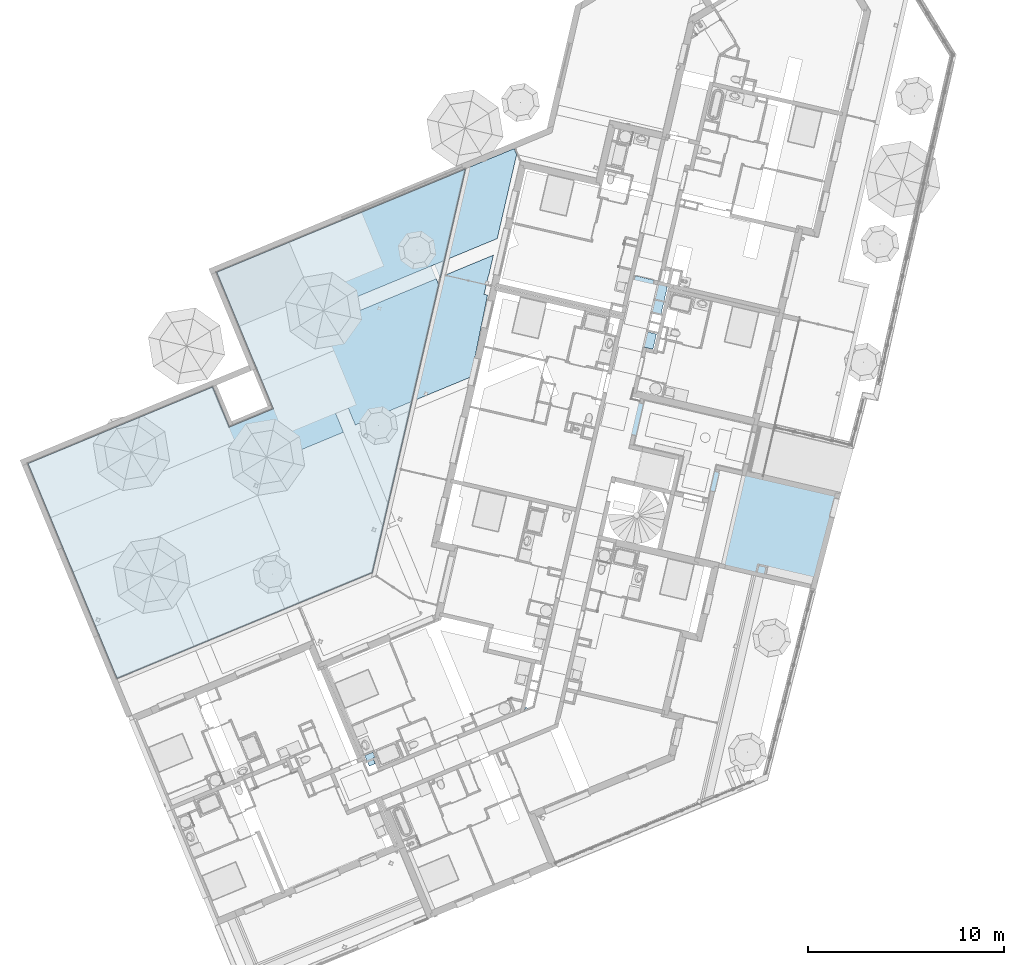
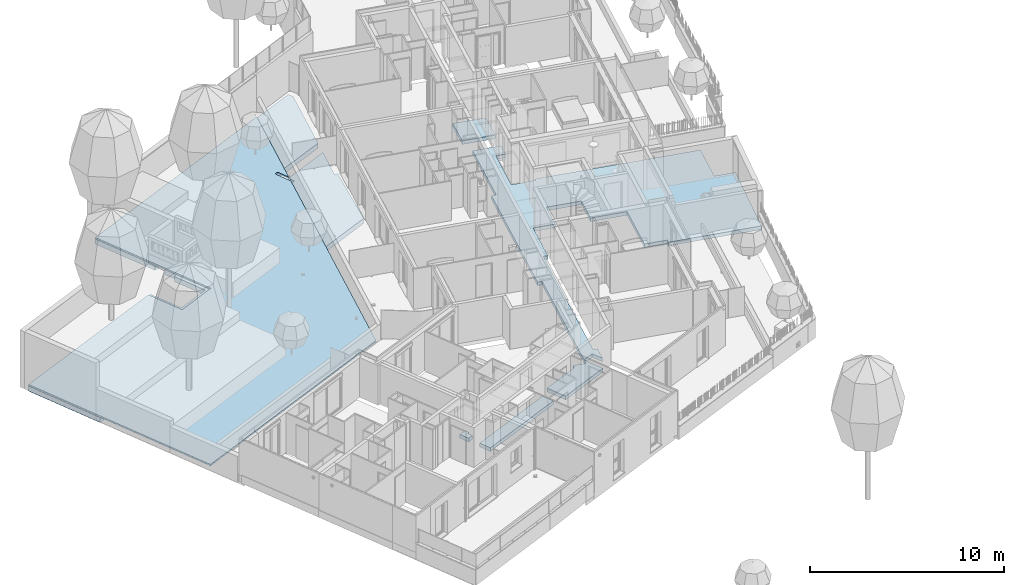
# One storey, part 4 of 119: 3 slabs.
"""IFC2X3 building model written with IfcOpenShell, lengths in metres."""

from ifc_helpers import new_model, entity, si_unit, converted_unit, derived_unit, money_unit, direction, frame, origin_with_axes, place, context, subcontext, project, spatial, faceted_brep, material, material_list, type_object, element, save


model = new_model("IFC2X3")

# Units and contexts
model_context = context("Model", 3, precision=1e-05, world=origin_with_axes(), true_north=direction((0.0, 1.0)))
body_context = subcontext(model_context, "Body", "Model", "MODEL_VIEW")
ifc_project = project(units=[si_unit("LENGTHUNIT", "METRE"), si_unit("AREAUNIT", "SQUARE_METRE"), si_unit("VOLUMEUNIT", "CUBIC_METRE"), converted_unit("PLANEANGLEUNIT", "DEGREE", entity("IfcPlaneAngleMeasure", 0.0174532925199), si_unit("PLANEANGLEUNIT", "RADIAN"), dimensions=[0, 0, 0, 0, 0, 0, 0]), si_unit("SOLIDANGLEUNIT", "STERADIAN"), money_unit("EUR"), converted_unit("TIMEUNIT", "Year", entity("IfcTimeMeasure", 31556926.0), si_unit("TIMEUNIT", "SECOND"), dimensions=[0, 0, 1, 0, 0, 0, 0]), si_unit("MASSUNIT", "GRAM", prefix="KILO"), si_unit("THERMODYNAMICTEMPERATUREUNIT", "DEGREE_CELSIUS"), si_unit("LUMINOUSINTENSITYUNIT", "LUMEN"), si_unit("ENERGYUNIT", "JOULE", prefix="MEGA"), derived_unit("THERMALCONDUCTANCEUNIT", [(si_unit("POWERUNIT", "WATT"), 1), (si_unit("LENGTHUNIT", "METRE"), -1), (si_unit("THERMODYNAMICTEMPERATUREUNIT", "KELVIN"), -1)]), derived_unit("SPECIFICHEATCAPACITYUNIT", [(si_unit("ENERGYUNIT", "JOULE"), 1), (si_unit("MASSUNIT", "GRAM", prefix="KILO"), -1), (si_unit("THERMODYNAMICTEMPERATUREUNIT", "KELVIN"), -1)]), derived_unit("MASSDENSITYUNIT", [(si_unit("MASSUNIT", "GRAM", prefix="KILO"), 1), (si_unit("VOLUMEUNIT", "CUBIC_METRE"), -1)])], contexts=[model_context])

# Site, building, storey
site_placement = place(None, origin_with_axes())
site = spatial("IfcSite", under=ifc_project, at=site_placement, Name="Site", CompositionType="ELEMENT")
building_placement = place(site_placement, origin_with_axes())
building = spatial("IfcBuilding", under=site, at=building_placement, Name="Bâtiment", CompositionType="ELEMENT")
storey_placement = place(building_placement, origin_with_axes())
storey = spatial("IfcBuildingStorey", under=building, at=storey_placement, Name="Rez-de-chaussée", CompositionType="ELEMENT", Elevation=0.0)

# Slabs
ifc_material_1 = material(Name="Divers - Vide")
ifc_material_2 = material(Name="Etanchéité - Bitume")
ifc_material_list = material_list([ifc_material_1, ifc_material_2])
slab_type_1 = type_object("IfcSlabType", Name="6 -Etanchéité dalle sous-sol sous terre 90", PredefinedType="FLOOR")
slab_1_placement = place(storey_placement, frame((-40.5172807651, -5.04094989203, 0.09), z_axis=(0.0, 0.0, 1.0), x_axis=(1.0, 0.0, 0.0)))
element("IfcSlab", 1, at=slab_1_placement, inside=storey, type_object=slab_type_1, material=ifc_material_list, Name="Dalle_007", PredefinedType="FLOOR", context=body_context, shape_type="Brep", body=[
    faceted_brep([(20.996148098, 9.42714633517, -0.04), (21.0027419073, 9.41124836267, -0.04), (22.2891817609, 14.9853852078, -0.04), (22.2919447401, 14.9973571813, -0.04), (22.27400142, 14.989915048, -0.04), (22.2778325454, 14.9806780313, -0.04), (21.0027419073, 9.41124836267, -0.08), (20.996148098, 9.42714633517, 0.0), (20.710200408, 10.1165791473, 0.0), (20.710200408, 10.1165791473, -0.08), (22.2919493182, 14.9973770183, -0.08), (22.27400142, 14.989915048, -0.08), (22.2778325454, 14.9806780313, -0.08), (22.2778325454, 14.9806780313, 0.0), (9.61933571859, 9.73046679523, 0.0), (11.6508897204, 4.83229818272, 0.0), (12.4975684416, 2.79091747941, 0.0), (12.501399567, 2.78168046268, 0.0), (10.2568107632, 1.85071958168, 0.0), (10.2529796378, 1.85995659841, 0.0), (9.41013204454, 3.89210027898, 0.0), (0.0130681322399, -0.00540597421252, 0.0), (4.55058945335, -10.9455751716, 0.0), (17.5375013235, -5.55915121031, 0.0), (20.9187405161, 9.09173970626, 0.0), (20.5254600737, 10.0399566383, 0.0), (20.5254600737, 10.0399566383, -0.08), (20.9253343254, 9.07584173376, -0.08), (17.5460875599, -5.56641600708, -0.08), (4.54518361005, -10.9586433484, -0.08), (4.54135243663, -10.9494062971, -0.08), (4.55058945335, -10.9455751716, -0.08), (0.0130681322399, -0.00540597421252, -0.08), (9.41013204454, 3.89210027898, -0.08), (10.2529796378, 1.85995659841, -0.08), (10.2568107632, 1.85071958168, -0.08), (12.501399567, 2.78168046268, -0.08), (12.4975684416, 2.79091747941, -0.08), (11.6508897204, 4.83229818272, -0.08), (9.61933571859, 9.73046679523, -0.08), (4.55058945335, -10.9455751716, -0.04), (17.5375013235, -5.55915121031, -0.04), (20.9187405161, 9.09173970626, -0.04), (20.9253343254, 9.07584173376, -0.04), (17.5460875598, -5.56641600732, -0.04), (17.5347383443, -5.57112318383, -0.04), (4.54518356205, -10.9586433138, -0.04), (4.54135243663, -10.9494062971, -0.04)], [[[0, 1, 2, 3, 4, 5]], [[6, 1, 0, 7, 8, 9]], [[1, 6, 10, 3, 2]], [[3, 10, 4]], [[5, 4, 11, 12]], [[7, 0, 5, 13]], [[8, 7, 13, 14, 15, 16, 17, 18, 19, 20, 21, 22, 23, 24, 25]], [[8, 25, 26, 9]], [[26, 27, 28, 29, 30, 31, 32, 33, 34, 35, 36, 37, 38, 39, 12, 11, 10, 6, 9]], [[11, 4, 10]], [[39, 14, 13, 5, 12]], [[14, 39, 38, 15]], [[37, 16, 15, 38]], [[36, 17, 16, 37]], [[35, 18, 17, 36]], [[34, 19, 18, 35]], [[20, 19, 34, 33]], [[33, 32, 21, 20]], [[31, 40, 22, 21, 32]], [[40, 41, 23, 22]], [[42, 24, 23, 41]], [[42, 43, 27, 26, 25, 24]], [[27, 43, 44, 28]], [[44, 45, 46, 29, 28]], [[29, 46, 47, 30]], [[30, 47, 40, 31]], [[43, 42, 41, 40, 47, 46, 45, 44]]]),
    faceted_brep([(20.5254600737, 10.0399566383, -0.08), (20.710200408, 10.1165791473, -0.08), (21.0027419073, 9.41124836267, -0.08), (22.2919493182, 14.9973770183, -0.08), (9.60626754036, 9.73587258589, -0.08), (11.6481805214, 4.83117452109, -0.08), (11.6508959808, 4.83230077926, -0.08), (12.4975747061, 2.79092008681, -0.08), (10.2622166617, 1.86378772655, -0.08), (9.41553793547, 3.90516842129, -0.08), (0.0, 0.0, -0.08), (4.54518361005, -10.9586433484, -0.08), (17.5460875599, -5.56641600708, -0.08), (20.9253343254, 9.07584173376, -0.08), (20.5254600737, 10.0399566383, -0.09), (20.710200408, 10.1165791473, -0.09), (21.0027419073, 9.41124836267, -0.09), (22.2919493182, 14.9973770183, -0.09), (9.60626754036, 9.73587258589, -0.09), (11.6481805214, 4.83117452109, -0.09), (11.6508959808, 4.83230077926, -0.09), (12.4975747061, 2.79092008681, -0.09), (10.2622166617, 1.86378772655, -0.09), (9.41553793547, 3.90516842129, -0.09), (0.0, 0.0, -0.09), (4.54518361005, -10.9586433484, -0.09), (17.5460875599, -5.56641600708, -0.09), (20.9253343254, 9.07584173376, -0.09)], [[[0, 1, 2, 3, 4, 5, 6, 7, 8, 9, 10, 11, 12, 13]], [[1, 0, 14, 15]], [[16, 2, 1, 15]], [[2, 16, 17, 3]], [[3, 17, 18, 4]], [[19, 5, 4, 18]], [[20, 6, 5, 19]], [[21, 7, 6, 20]], [[22, 8, 7, 21]], [[23, 9, 8, 22]], [[24, 10, 9, 23]], [[10, 24, 25, 11]], [[11, 25, 26, 12]], [[27, 13, 12, 26]], [[0, 13, 27, 14]], [[14, 27, 26, 25, 24, 23, 22, 21, 20, 19, 18, 17, 16, 15]]]),
])
ifc_material_3 = material(Name="Béton")
slab_type_2 = type_object("IfcSlabType", Name="Béton 320", PredefinedType="FLOOR")
slab_2_placement = place(storey_placement, frame((-16.6275093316, 3.92628241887, 0.0), z_axis=(0.0, 0.0, 1.0), x_axis=(1.0, 0.0, 0.0)))
element("IfcSlab", 2, at=slab_2_placement, inside=storey, type_object=slab_type_2, material=ifc_material_3, Name="Dalle alvéolaire préfabriquée", PredefinedType="FLOOR", context=body_context, shape_type="Brep", body=[
    faceted_brep([(0.865340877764, 7.05175783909, 0.0), (-14.2835038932, 0.768640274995, 0.0), (-12.7891793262, -2.8342259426, 0.0), (0.00729475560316, 2.47321248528, 0.0), (0.993011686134, 6.74431853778, 0.0), (-14.2835038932, 0.768640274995, -0.32), (0.865340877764, 7.05175783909, -0.32), (-12.7891793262, -2.8342259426, -0.32), (0.00729475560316, 2.47321248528, -0.32), (0.993011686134, 6.74431853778, -0.32)], [[[0, 1, 2, 3, 4]], [[5, 1, 0, 6]], [[1, 5, 7, 2]], [[2, 7, 8, 3]], [[9, 4, 3, 8]], [[6, 0, 4, 9]], [[6, 9, 8, 7, 5]]]),
    faceted_brep([(-2.75814722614, 0.13327499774, 0.0), (-2.94288756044, 0.0566524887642, 0.0), (-3.09687146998, 0.427914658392, 0.0), (-9.2449945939, -2.12206783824, 0.0), (-7.21753300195, -7.01036942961, 0.0), (-1.34414815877, -4.57433679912, 0.0), (-1.23375768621, -4.09601548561, 0.0), (-0.488751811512, -0.400345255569, 0.0), (-0.662237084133, -0.360307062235, 0.0), (-0.437360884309, 0.614080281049, 0.0), (-0.422557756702, 0.610663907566, 0.0), (-0.186113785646, 1.63517433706, 0.0), (-2.91213113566, 0.504537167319, 0.0), (-2.94288756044, 0.0566524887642, -0.32), (-2.75814722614, 0.13327499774, -0.32), (-3.09687146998, 0.427914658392, -0.32), (-9.2449945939, -2.12206783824, -0.32), (-7.21753300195, -7.01036942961, -0.32), (-1.34414815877, -4.57433679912, -0.32), (-1.23375768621, -4.09601548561, -0.32), (-0.488751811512, -0.400345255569, -0.32), (-0.662237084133, -0.360307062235, -0.32), (-0.437360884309, 0.614080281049, -0.32), (-0.422557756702, 0.610663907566, -0.32), (-0.186113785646, 1.63517433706, -0.32), (-2.91213113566, 0.504537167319, -0.32)], [[[0, 1, 2, 3, 4, 5, 6, 7, 8, 9, 10, 11, 12]], [[13, 1, 0, 14]], [[15, 2, 1, 13]], [[3, 2, 15, 16]], [[3, 16, 17, 4]], [[18, 5, 4, 17]], [[5, 18, 19, 6]], [[20, 7, 6, 19]], [[21, 8, 7, 20]], [[21, 22, 9, 8]], [[9, 22, 23, 10]], [[10, 23, 24, 11]], [[24, 25, 12, 11]], [[14, 0, 12, 25]], [[13, 14, 25, 24, 23, 22, 21, 20, 19, 18, 17, 16, 15]]]),
    faceted_brep([(-22.0929221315, -13.2995172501, -0.32), (-18.1671900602, -11.671288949, -0.32), (-18.1671900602, -11.671288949, 0.0), (-22.0929221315, -13.2995172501, 0.0), (-23.8897714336, -8.9672323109, -0.32), (-19.9640393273, -7.33900410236, -0.32), (-19.9640393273, -7.33900410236, 0.0), (-23.8897714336, -8.9672323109, 0.0)], [[[0, 1, 2, 3]], [[4, 5, 1, 0]], [[5, 6, 2, 1]], [[3, 2, 6, 7]], [[3, 7, 4, 0]], [[7, 6, 5, 4]]]),
    faceted_brep([(-14.2802561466, -4.98161025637, 0.0), (-14.6065696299, -5.11695134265, 0.0), (-12.8097203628, -9.44923618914, 0.0), (-7.82184840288, -7.38047700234, 0.0), (-9.89158576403, -2.39024661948, 0.0), (-12.521000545, -3.48081711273, 0.0), (-12.2481124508, -4.13876264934, 0.0), (-12.4328528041, -4.21538516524, 0.0), (-11.666627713, -6.0627885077, 0.0), (-13.5140310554, -6.82901359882, 0.0), (-14.2802561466, -4.98161025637, -0.32), (-14.6065696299, -5.11695134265, -0.32), (-12.8097203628, -9.44923618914, -0.32), (-7.82184840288, -7.38047700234, -0.32), (-9.89158576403, -2.39024661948, -0.32), (-12.521000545, -3.48081711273, -0.32), (-12.2481124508, -4.13876264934, -0.32), (-12.4328528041, -4.21538516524, -0.32), (-11.666627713, -6.0627885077, -0.32), (-13.5140310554, -6.82901359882, -0.32)], [[[0, 1, 2, 3, 4, 5, 6, 7, 8, 9]], [[10, 11, 1, 0]], [[12, 2, 1, 11]], [[2, 12, 13, 3]], [[14, 4, 3, 13]], [[5, 4, 14, 15]], [[6, 5, 15, 16]], [[7, 6, 16, 17]], [[8, 7, 17, 18]], [[9, 8, 18, 19]], [[0, 9, 19, 10]], [[13, 12, 11, 10, 19, 18, 17, 16, 15, 14]]]),
    faceted_brep([(-15.3455309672, -5.42344137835, 0.0), (-19.22507799, -7.03251406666, 0.0), (-17.4282287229, -11.3647989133, 0.0), (-13.5486817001, -9.75572622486, 0.0), (-15.3455309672, -5.42344137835, -0.32), (-19.22507799, -7.03251406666, -0.32), (-17.4282287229, -11.3647989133, -0.32), (-13.5486817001, -9.75572622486, -0.32)], [[[0, 1, 2, 3]], [[4, 5, 1, 0]], [[5, 6, 2, 1]], [[3, 2, 6, 7]], [[4, 0, 3, 7]], [[7, 6, 5, 4]]]),
])
slab_type_3 = type_object("IfcSlabType", Name="Béton 230", PredefinedType="FLOOR")
slab_3_placement = place(storey_placement, frame((-23.5844859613, -20.4172433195, -0.05), z_axis=(0.0, 0.0, 1.0), x_axis=(1.0, 0.0, 0.0)))
element("IfcSlab", 3, at=slab_3_placement, inside=storey, type_object=slab_type_3, material=ifc_material_3, Name="Pré-dalle préfabriquée pour dalle béton", PredefinedType="FLOOR", context=body_context, shape_type="Brep", body=[
    faceted_brep([(0.636809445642, 0.681682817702, 0.0), (0.221713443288, 0.509518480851, 0.0), (0.447889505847, -0.035802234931, 0.0), (0.755836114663, 0.0919210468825, 0.0), (0.634389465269, 0.384734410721, 0.0), (0.741538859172, 0.429175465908, 0.0), (0.636809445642, 0.681682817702, -0.23), (0.221713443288, 0.509518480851, -0.23), (0.447889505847, -0.035802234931, -0.23), (0.755836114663, 0.0919210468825, -0.23), (0.634389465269, 0.384734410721, -0.23), (0.741538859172, 0.429175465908, -0.23)], [[[0, 1, 2, 3, 4, 5]], [[6, 7, 1, 0]], [[7, 8, 2, 1]], [[3, 2, 8, 9]], [[4, 3, 9, 10]], [[5, 4, 10, 11]], [[0, 5, 11, 6]], [[9, 8, 7, 6, 11, 10]]]),
    faceted_brep([(13.555718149, 23.3756755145, 0.0), (13.5465344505, 23.3358825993, 0.0), (15.2916640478, 22.9331288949, 0.0), (15.6204911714, 24.3579350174, 0.0), (15.5613435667, 24.371585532, 0.0), (15.601913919, 24.5469721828, 0.0), (13.9083481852, 24.9480884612, 0.0), (13.8731168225, 24.7509622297, 0.0), (13.555718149, 23.3756755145, -0.23), (13.5465344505, 23.3358825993, -0.23), (15.2916640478, 22.9331288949, -0.23), (15.6204911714, 24.3579350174, -0.23), (15.5613435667, 24.371585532, -0.23), (15.601913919, 24.5469721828, -0.23), (13.9083481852, 24.9480884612, -0.23), (13.8731168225, 24.7509622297, -0.23)], [[[0, 1, 2, 3, 4, 5, 6, 7]], [[8, 9, 1, 0]], [[9, 10, 2, 1]], [[3, 2, 10, 11]], [[4, 3, 11, 12]], [[5, 4, 12, 13]], [[6, 5, 13, 14]], [[7, 6, 14, 15]], [[0, 7, 15, 8]], [[11, 10, 9, 8, 15, 14, 13, 12]]]),
    faceted_brep([(10.7982448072, 10.322625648, 0.0), (9.13540591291, 3.11755384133, 0.0), (9.77456683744, 3.38265086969, 0.0), (10.0372316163, 2.74935420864, -2.33519375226e-08), (10.2420623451, 3.63688463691, -5.44048184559e-08), (10.0088482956, 3.69070747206, -5.44048184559e-08), (11.979171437, 12.2281068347, -5.44048184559e-08), (12.2123854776, 12.1742840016, -5.44048184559e-08), (12.7973796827, 14.7090606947, 0.0), (13.9609897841, 14.4405142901, 0.0), (14.3195420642, 15.9905447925, 0.0), (16.1706616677, 15.5623447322, 0.0), (15.8108597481, 14.0033249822, 0.0), (17.7352747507, 13.5591944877, 0.0), (17.0471535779, 10.5775692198, 0.0), (18.2524382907, 10.2994048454, 0.0), (18.2073663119, 10.1045575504, 0.0), (23.1027891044, 8.97474841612, 0.0), (24.3690316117, 13.8344710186, 0.0), (23.2438278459, 14.0946740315, 0.0), (23.7954236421, 16.479236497, 0.0), (20.0067628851, 17.3556276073, 0.0), (15.0874905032, 18.4909330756, 0.0), (15.0593634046, 18.3690585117, 0.0), (14.3908702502, 18.5233382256, 0.0), (14.3862259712, 18.5032608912, 0.0), (13.7679638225, 18.6460464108, 0.0), (14.3805584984, 21.3004157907, 0.0), (14.8878356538, 21.1833426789, 0.0), (15.0667878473, 21.9587415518, 0.0), (13.5701866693, 22.3041380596, 0.0), (12.6325536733, 18.2413794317, 0.0), (12.3840252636, 18.2987366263, 0.0), (10.5561357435, 10.3785013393, 0.0), (10.7982448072, 10.322625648, -0.23), (9.13540591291, 3.11755384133, -0.23), (9.77456683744, 3.38265086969, -0.23), (10.0372316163, 2.74935420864, -0.23), (10.2420623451, 3.63688463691, -0.23), (10.0088482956, 3.69070747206, -0.23), (11.979171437, 12.2281068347, -0.23), (12.2123854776, 12.1742840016, -0.23), (12.7973796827, 14.7090606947, -0.23), (13.9609897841, 14.4405142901, -0.23), (14.3195420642, 15.9905447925, -0.23), (16.1706616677, 15.5623447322, -0.23), (15.8108597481, 14.0033249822, -0.23), (17.7352747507, 13.5591944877, -0.23), (17.0471535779, 10.5775692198, -0.23), (18.2524382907, 10.2994048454, -0.23), (18.2073663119, 10.1045575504, -0.23), (23.1027891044, 8.97474841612, -0.23), (24.3690316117, 13.8344710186, -0.23), (23.2438278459, 14.0946740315, -0.23), (23.7954236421, 16.479236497, -0.23), (20.0067628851, 17.3556276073, -0.23), (15.0874905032, 18.4909330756, -0.23), (15.0593634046, 18.3690585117, -0.23), (14.3908702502, 18.5233382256, -0.23), (14.3862259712, 18.5032608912, -0.23), (13.7679638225, 18.6460464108, -0.23), (14.3805584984, 21.3004157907, -0.23), (14.8878356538, 21.1833426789, -0.23), (15.0667878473, 21.9587415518, -0.23), (13.5701866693, 22.3041380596, -0.23), (12.6325536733, 18.2413794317, -0.23), (12.3840252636, 18.2987366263, -0.23), (10.5561357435, 10.3785013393, -0.23)], [[[0, 1, 2, 3, 4, 5, 6, 7, 8, 9, 10, 11, 12, 13, 14, 15, 16, 17, 18, 19, 20, 21, 22, 23, 24, 25, 26, 27, 28, 29, 30, 31, 32, 33]], [[34, 35, 1, 0]], [[36, 2, 1, 35]], [[36, 37, 3, 2]], [[4, 3, 37, 38]], [[39, 5, 4, 38]], [[40, 6, 5, 39]], [[40, 41, 7, 6]], [[8, 7, 41, 42]], [[9, 8, 42, 43]], [[10, 9, 43, 44]], [[11, 10, 44, 45]], [[12, 11, 45, 46]], [[13, 12, 46, 47]], [[14, 13, 47, 48]], [[15, 14, 48, 49]], [[16, 15, 49, 50]], [[17, 16, 50, 51]], [[18, 17, 51, 52]], [[19, 18, 52, 53]], [[20, 19, 53, 54]], [[21, 20, 54, 55]], [[55, 56, 22, 21]], [[57, 23, 22, 56]], [[58, 24, 23, 57]], [[25, 24, 58, 59]], [[26, 25, 59, 60]], [[27, 26, 60, 61]], [[61, 62, 28, 27]], [[62, 63, 29, 28]], [[64, 30, 29, 63]], [[31, 30, 64, 65]], [[66, 32, 31, 65]], [[33, 32, 66, 67]], [[34, 0, 33, 67]], [[37, 36, 35, 34, 67, 66, 65, 64, 63, 62, 61, 60, 59, 58, 57, 56, 55, 54, 53, 52, 51, 50, 49, 48, 47, 46, 45, 44, 43, 42, 41, 40, 39, 38]]]),
    faceted_brep([(8.33354847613, 2.7491439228, 0.0), (6.20963897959, 1.86823572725, 0.0), (6.67320515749, 0.750556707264, 0.0), (9.60422256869, 1.96621927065, 0.0), (9.13229258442, 3.10406380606, 0.0), (9.06341811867, 2.80563112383, 0.0), (8.38283475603, 2.96270110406, 0.0), (8.33354847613, 2.7491439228, -0.23), (6.20963897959, 1.86823572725, -0.23), (6.67320515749, 0.750556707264, -0.23), (9.60422256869, 1.96621927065, -0.23), (9.13229258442, 3.10406380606, -0.23), (9.06341811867, 2.80563112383, -0.23), (8.38283475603, 2.96270110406, -0.23)], [[[0, 1, 2, 3, 4, 5, 6]], [[7, 8, 1, 0]], [[8, 9, 2, 1]], [[3, 2, 9, 10]], [[11, 4, 3, 10]], [[5, 4, 11, 12]], [[13, 6, 5, 12]], [[0, 6, 13, 7]], [[10, 9, 8, 7, 13, 12, 11]]]),
    faceted_brep([(5.65934872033, 1.36787109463, 0.0), (0.716068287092, -0.682393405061, 0.0), (0.98715833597, -1.33600377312, 0.0), (5.9304387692, 0.714260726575, 0.0), (5.65934872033, 1.36787109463, -0.23), (0.716068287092, -0.682393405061, -0.23), (0.98715833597, -1.33600377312, -0.23), (5.9304387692, 0.714260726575, -0.23)], [[[0, 1, 2, 3]], [[4, 5, 1, 0]], [[5, 6, 2, 1]], [[3, 2, 6, 7]], [[7, 4, 0, 3]], [[7, 6, 5, 4]]]),
])

save(model, "model.ifc")
